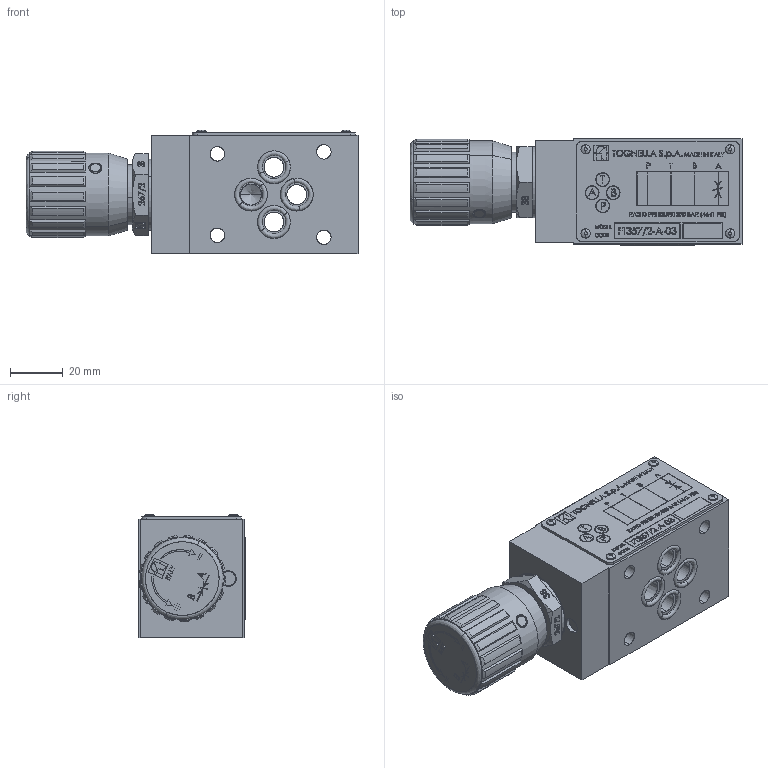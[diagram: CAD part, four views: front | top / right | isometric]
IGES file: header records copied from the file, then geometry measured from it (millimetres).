
Start section: SolidWorks IGES file using analytic representation for surfaces
Global section: file name: C:\Users\user\Desktop\FT357-2-A-03.IGS; native system: SolidWorks 2014; preprocessor: SolidWorks 2014; author: user; date: 140616.155654; units: millimetre
Bounding box: 126.3 x 40.38 x 46.96 mm (x, y, z)
Surface area: 50346.8 mm2 (no closed solid volume)
Topology: 0 solids, 0 shells, 1957 faces, 21513 edges, 21501 vertices
Faces by surface type: bspline 1638, revolution 319
